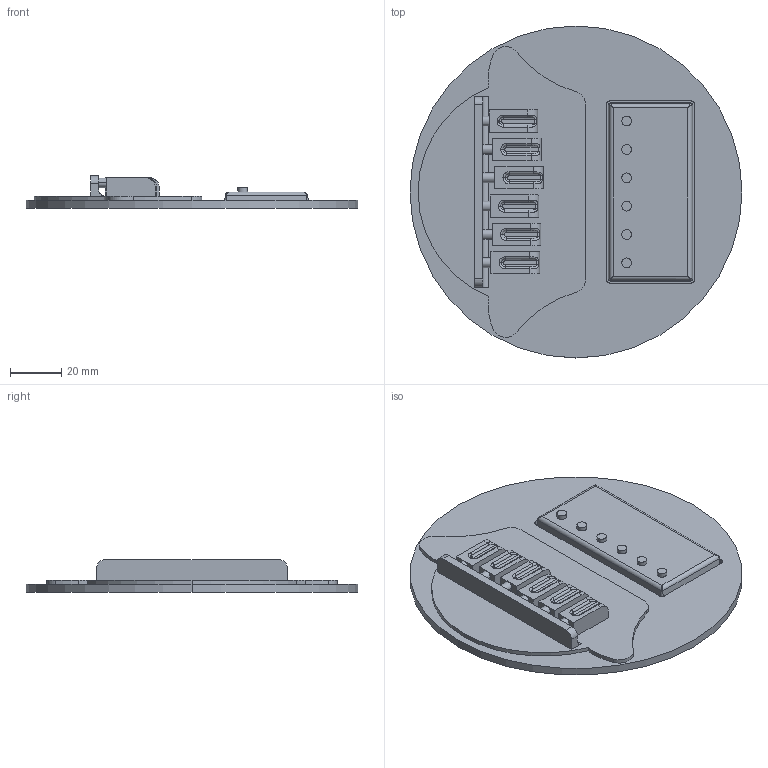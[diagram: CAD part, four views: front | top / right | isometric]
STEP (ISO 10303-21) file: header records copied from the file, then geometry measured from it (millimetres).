
FILE_DESCRIPTION (( 'STEP AP203' ), '1' );
FILE_NAME ('rear hardware models.STEP', '2017-09-13T19:38:35', ( '' ), ( '' ), 'SwSTEP 2.0', 'SolidWorks 2015', '' );
FILE_SCHEMA (( 'CONFIG_CONTROL_DESIGN' ));
Length unit declared in the file: inch
Products named in the file (1): rear hardware models
Bounding box: 130.18 x 130.18 x 12.7 mm (x, y, z)
Volume: 66212.3 mm3; surface area: 33246 mm2
Topology: 1 solids, 1 shells, 192 faces, 472 edges, 294 vertices
Faces by surface type: cylinder 86, plane 62, torus 24, bspline 16, cone 4
Entity records: 8597 total; most frequent: CARTESIAN_POINT 3945, DIRECTION 986, ORIENTED_EDGE 936, EDGE_CURVE 468, AXIS2_PLACEMENT_3D 381, VERTEX_POINT 294, VECTOR 224, LINE 224
